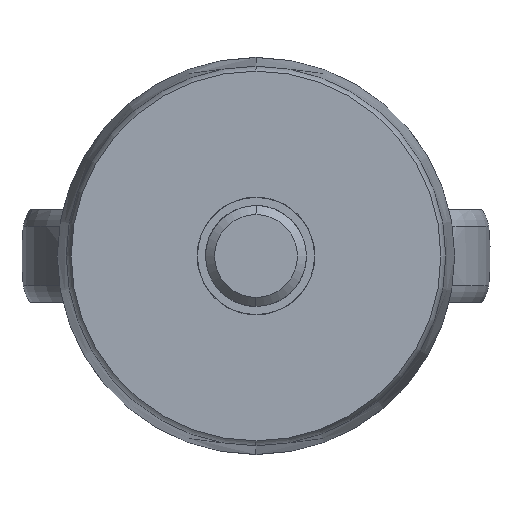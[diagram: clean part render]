
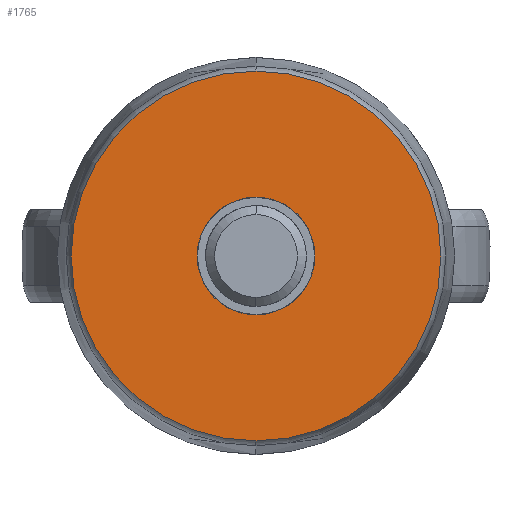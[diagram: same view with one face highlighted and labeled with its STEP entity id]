
A CAD part, front view. The second image highlights one B-rep face of the part: STEP entity #1765.
In plain terms, the highlighted planar face has unit normal (0, -1, 0).
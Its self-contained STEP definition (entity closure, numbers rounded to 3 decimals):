
#1553=CARTESIAN_POINT('Vertex',(0.,0.,22.)) ;
#1560=CARTESIAN_POINT('Vertex',(0.,0.,-22.)) ;
#1563=CARTESIAN_POINT('Axis2P3D Location',(0.,0.,0.)) ;
#1567=CARTESIAN_POINT('Vertex',(-22.,0.,0.)) ;
#1570=CARTESIAN_POINT('Axis2P3D Location',(0.,0.,0.)) ;
#1589=CARTESIAN_POINT('Axis2P3D Location',(0.,0.,0.)) ;
#1593=CARTESIAN_POINT('Vertex',(22.,0.,0.)) ;
#1596=CARTESIAN_POINT('Axis2P3D Location',(0.,0.,0.)) ;
#1672=CARTESIAN_POINT('Axis2P3D Location',(22.,0.,0.)) ;
#1684=CARTESIAN_POINT('Control Point',(0.,0.,-7.)) ;
#1685=CARTESIAN_POINT('Control Point',(0.393,0.,-7.)) ;
#1686=CARTESIAN_POINT('Control Point',(0.786,0.,-6.972)) ;
#1687=CARTESIAN_POINT('Control Point',(1.177,0.,-6.917)) ;
#1688=CARTESIAN_POINT('Control Point',(2.198,0.,-6.699)) ;
#1689=CARTESIAN_POINT('Control Point',(3.165,0.,-6.294)) ;
#1690=CARTESIAN_POINT('Control Point',(3.735,0.,-5.974)) ;
#1691=CARTESIAN_POINT('Control Point',(4.79,0.,-5.207)) ;
#1692=CARTESIAN_POINT('Control Point',(5.642,0.,-4.219)) ;
#1693=CARTESIAN_POINT('Control Point',(6.009,0.,-3.677)) ;
#1694=CARTESIAN_POINT('Control Point',(6.547,0.,-2.643)) ;
#1695=CARTESIAN_POINT('Control Point',(6.861,0.,-1.524)) ;
#1696=CARTESIAN_POINT('Control Point',(6.954,0.,-1.02)) ;
#1697=CARTESIAN_POINT('Control Point',(7.,0.,-0.51)) ;
#1698=CARTESIAN_POINT('Control Point',(7.,0.,0.)) ;
#1699=CARTESIAN_POINT('Vertex',(0.,0.,-7.)) ;
#1701=CARTESIAN_POINT('Vertex',(7.,0.,0.)) ;
#1705=CARTESIAN_POINT('Control Point',(-7.,0.,0.)) ;
#1706=CARTESIAN_POINT('Control Point',(-7.,0.,-0.648)) ;
#1707=CARTESIAN_POINT('Control Point',(-6.925,0.,-1.296)) ;
#1708=CARTESIAN_POINT('Control Point',(-6.775,0.,-1.933)) ;
#1709=CARTESIAN_POINT('Control Point',(-6.33,0.,-3.159)) ;
#1710=CARTESIAN_POINT('Control Point',(-5.617,0.,-4.252)) ;
#1711=CARTESIAN_POINT('Control Point',(-5.199,0.,-4.755)) ;
#1712=CARTESIAN_POINT('Control Point',(-4.253,0.,-5.654)) ;
#1713=CARTESIAN_POINT('Control Point',(-3.127,0.,-6.313)) ;
#1714=CARTESIAN_POINT('Control Point',(-2.529,0.,-6.576)) ;
#1715=CARTESIAN_POINT('Control Point',(-1.659,0.,-6.842)) ;
#1716=CARTESIAN_POINT('Control Point',(-0.764,0.,-6.965)) ;
#1717=CARTESIAN_POINT('Control Point',(-0.51,0.,-6.988)) ;
#1718=CARTESIAN_POINT('Control Point',(-0.255,0.,-7.)) ;
#1719=CARTESIAN_POINT('Control Point',(0.,0.,-7.)) ;
#1720=CARTESIAN_POINT('Vertex',(-7.,0.,0.)) ;
#1724=CARTESIAN_POINT('Control Point',(0.,0.,7.)) ;
#1725=CARTESIAN_POINT('Control Point',(-0.393,0.,7.)) ;
#1726=CARTESIAN_POINT('Control Point',(-0.786,0.,6.972)) ;
#1727=CARTESIAN_POINT('Control Point',(-1.177,0.,6.917)) ;
#1728=CARTESIAN_POINT('Control Point',(-2.198,0.,6.699)) ;
#1729=CARTESIAN_POINT('Control Point',(-3.165,0.,6.294)) ;
#1730=CARTESIAN_POINT('Control Point',(-3.735,0.,5.974)) ;
#1731=CARTESIAN_POINT('Control Point',(-4.79,0.,5.207)) ;
#1732=CARTESIAN_POINT('Control Point',(-5.642,0.,4.219)) ;
#1733=CARTESIAN_POINT('Control Point',(-6.009,0.,3.677)) ;
#1734=CARTESIAN_POINT('Control Point',(-6.547,0.,2.643)) ;
#1735=CARTESIAN_POINT('Control Point',(-6.861,0.,1.524)) ;
#1736=CARTESIAN_POINT('Control Point',(-6.954,0.,1.02)) ;
#1737=CARTESIAN_POINT('Control Point',(-7.,0.,0.51)) ;
#1738=CARTESIAN_POINT('Control Point',(-7.,0.,0.)) ;
#1739=CARTESIAN_POINT('Vertex',(0.,0.,7.)) ;
#1743=CARTESIAN_POINT('Control Point',(7.,0.,0.)) ;
#1744=CARTESIAN_POINT('Control Point',(7.,0.,0.648)) ;
#1745=CARTESIAN_POINT('Control Point',(6.925,0.,1.296)) ;
#1746=CARTESIAN_POINT('Control Point',(6.775,0.,1.933)) ;
#1747=CARTESIAN_POINT('Control Point',(6.33,0.,3.159)) ;
#1748=CARTESIAN_POINT('Control Point',(5.617,0.,4.252)) ;
#1749=CARTESIAN_POINT('Control Point',(5.199,0.,4.755)) ;
#1750=CARTESIAN_POINT('Control Point',(4.253,0.,5.654)) ;
#1751=CARTESIAN_POINT('Control Point',(3.127,0.,6.313)) ;
#1752=CARTESIAN_POINT('Control Point',(2.529,0.,6.576)) ;
#1753=CARTESIAN_POINT('Control Point',(1.659,0.,6.842)) ;
#1754=CARTESIAN_POINT('Control Point',(0.764,0.,6.965)) ;
#1755=CARTESIAN_POINT('Control Point',(0.51,0.,6.988)) ;
#1756=CARTESIAN_POINT('Control Point',(0.255,0.,7.)) ;
#1757=CARTESIAN_POINT('Control Point',(0.,0.,7.)) ;
#1564=DIRECTION('Axis2P3D Direction',(0.,1.,0.)) ;
#1571=DIRECTION('Axis2P3D Direction',(0.,1.,0.)) ;
#1590=DIRECTION('Axis2P3D Direction',(0.,1.,0.)) ;
#1597=DIRECTION('Axis2P3D Direction',(0.,1.,0.)) ;
#1673=DIRECTION('Axis2P3D Direction',(0.,1.,0.)) ;
#1674=DIRECTION('Axis2P3D XDirection',(0.,-0.,1.)) ;
#1565=AXIS2_PLACEMENT_3D('Circle Axis2P3D',#1563,#1564,$) ;
#1572=AXIS2_PLACEMENT_3D('Circle Axis2P3D',#1570,#1571,$) ;
#1591=AXIS2_PLACEMENT_3D('Circle Axis2P3D',#1589,#1590,$) ;
#1598=AXIS2_PLACEMENT_3D('Circle Axis2P3D',#1596,#1597,$) ;
#1675=AXIS2_PLACEMENT_3D('Plane Axis2P3D',#1672,#1673,#1674) ;
#1678=ORIENTED_EDGE('',*,*,#1595,.T.) ;
#1679=ORIENTED_EDGE('',*,*,#1574,.T.) ;
#1680=ORIENTED_EDGE('',*,*,#1569,.T.) ;
#1681=ORIENTED_EDGE('',*,*,#1600,.T.) ;
#1760=ORIENTED_EDGE('',*,*,#1703,.F.) ;
#1761=ORIENTED_EDGE('',*,*,#1722,.F.) ;
#1762=ORIENTED_EDGE('',*,*,#1741,.F.) ;
#1763=ORIENTED_EDGE('',*,*,#1758,.F.) ;
#1764=FACE_BOUND('',#1759,.T.) ;
#1765=ADVANCED_FACE('_C817XC12',(#1682,#1764),#1676,.F.) ;
#1683=B_SPLINE_CURVE_WITH_KNOTS('',5,(#1684,#1685,#1686,#1687,#1688,#1689,#1690,#1691,#1692,#1693,#1694,#1695,#1696,#1697,#1698),.UNSPECIFIED.,.F.,.U.,(6,3,3,3,6),(15.55,18.33,22.913,27.495,31.1),.UNSPECIFIED.) ;
#1704=B_SPLINE_CURVE_WITH_KNOTS('',5,(#1705,#1706,#1707,#1708,#1709,#1710,#1711,#1712,#1713,#1714,#1715,#1716,#1717,#1718,#1719),.UNSPECIFIED.,.F.,.U.,(6,3,3,3,6),(0.,4.583,9.165,13.748,15.55),.UNSPECIFIED.) ;
#1723=B_SPLINE_CURVE_WITH_KNOTS('',5,(#1724,#1725,#1726,#1727,#1728,#1729,#1730,#1731,#1732,#1733,#1734,#1735,#1736,#1737,#1738),.UNSPECIFIED.,.F.,.U.,(6,3,3,3,6),(15.55,18.33,22.913,27.495,31.1),.UNSPECIFIED.) ;
#1742=B_SPLINE_CURVE_WITH_KNOTS('',5,(#1743,#1744,#1745,#1746,#1747,#1748,#1749,#1750,#1751,#1752,#1753,#1754,#1755,#1756,#1757),.UNSPECIFIED.,.F.,.U.,(6,3,3,3,6),(0.,4.583,9.165,13.748,15.55),.UNSPECIFIED.) ;
#1566=CIRCLE('generated circle',#1565,22.) ;
#1573=CIRCLE('generated circle',#1572,22.) ;
#1592=CIRCLE('generated circle',#1591,22.) ;
#1599=CIRCLE('generated circle',#1598,22.) ;
#1569=EDGE_CURVE('',#1568,#1561,#1566,.F.) ;
#1574=EDGE_CURVE('',#1554,#1568,#1573,.F.) ;
#1595=EDGE_CURVE('',#1594,#1554,#1592,.F.) ;
#1600=EDGE_CURVE('',#1561,#1594,#1599,.F.) ;
#1703=EDGE_CURVE('',#1700,#1702,#1683,.T.) ;
#1722=EDGE_CURVE('',#1721,#1700,#1704,.T.) ;
#1741=EDGE_CURVE('',#1740,#1721,#1723,.T.) ;
#1758=EDGE_CURVE('',#1702,#1740,#1742,.T.) ;
#1677=EDGE_LOOP('',(#1678,#1679,#1680,#1681)) ;
#1759=EDGE_LOOP('',(#1760,#1761,#1762,#1763)) ;
#1682=FACE_OUTER_BOUND('',#1677,.T.) ;
#1676=PLANE('Plane',#1675) ;
#1554=VERTEX_POINT('',#1553) ;
#1561=VERTEX_POINT('',#1560) ;
#1568=VERTEX_POINT('',#1567) ;
#1594=VERTEX_POINT('',#1593) ;
#1700=VERTEX_POINT('',#1699) ;
#1702=VERTEX_POINT('',#1701) ;
#1721=VERTEX_POINT('',#1720) ;
#1740=VERTEX_POINT('',#1739) ;
